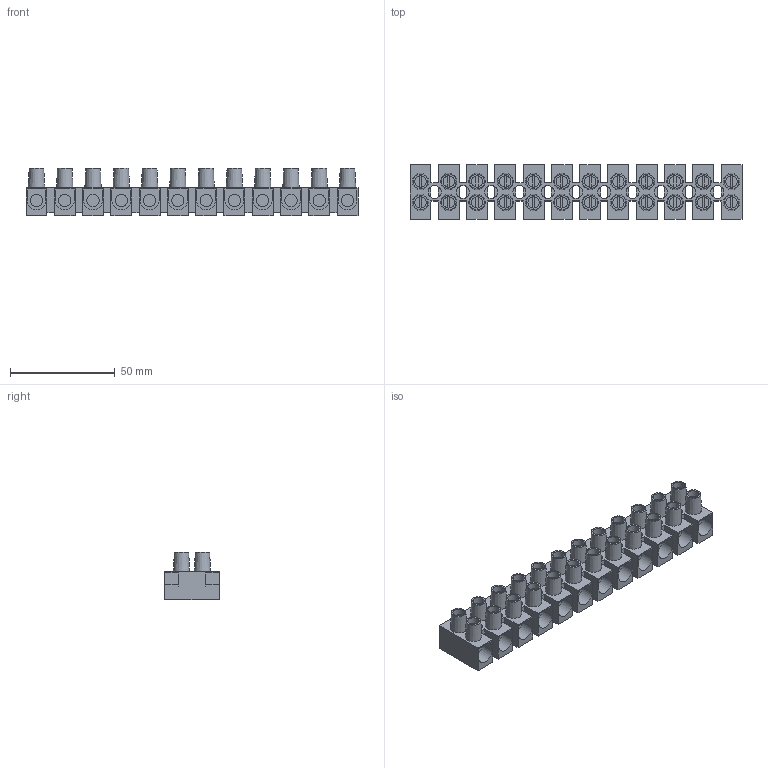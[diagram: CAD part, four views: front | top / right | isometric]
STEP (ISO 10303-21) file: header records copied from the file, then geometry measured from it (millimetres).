
FILE_DESCRIPTION(/* description */ ('Unknown'),/* implementation_level */ '2;1');
FILE_NAME(/* name */ 'MT 1116 TS',/* time_stamp */ '2021-10-08T09:51:31+02:00',/* author */ ('Unknown'),/* organization */ ('Unknown'),/* preprocessor_version */ 'ST-DEVELOPER v16.7',/* originating_system */ 'Solid Edge',/* authorisation */ 'Unknown');
FILE_SCHEMA (('AUTOMOTIVE_DESIGN {1 0 10303 214 3 1 1}'));
Length unit declared in the file: millimetre
Products named in the file (1): MT 1116 TS
Bounding box: 158.5 x 26.2 x 22.5 mm (x, y, z)
Volume: 28630.6 mm3; surface area: 35386.4 mm2
Topology: 1 solids, 1 shells, 558 faces, 1377 edges, 918 vertices
Faces by surface type: plane 451, cylinder 83, cone 24
Full cylindrical faces by diameter (mm): 5.4 x24, 5.85 x24, 6.2 x11
Entity records: 15804 total; most frequent: CARTESIAN_POINT 2701, DIRECTION 2696, ORIENTED_EDGE 2518, EDGE_CURVE 1259, LINE 940, VECTOR 940, VERTEX_POINT 883, AXIS2_PLACEMENT_3D 878
